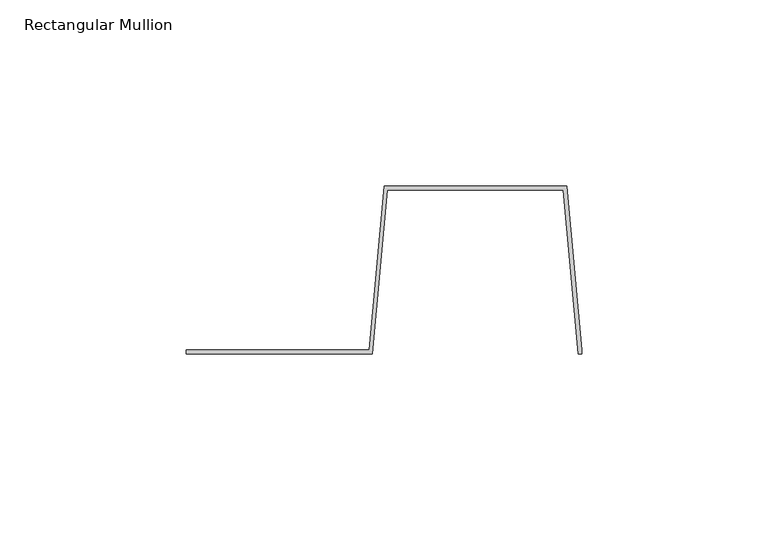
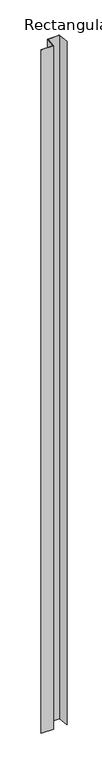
"""IFC4 building model written with IfcOpenShell, lengths in millimetres: member geometry, Rectangular Mullion : CD_NINELINE_Batten Intermediate."""

import ifcopenshell
import ifcopenshell.guid

model = None  # the IFC model being written
_history = None  # IfcOwnerHistory: only IFC2X3 demands one
_inside = {}  # id of a spatial element -> (the spatial element, [elements in it])
_under = {}  # id of a project, library or spatial element -> (it, [spatial elements below it])
_declared = {}  # id of a project -> (the project, [libraries it declares])
_typed = {}  # id of a type object -> (the type object, [elements of that type])
_made_of = {}  # id of a material, layer set ... -> (it, [elements and type objects made of it])


def new_model(schema):
    """Start an empty IFC model of exactly this schema.

    Asked for "IFC4X3", IfcOpenShell would pick the latest addendum, in which some entities
    have other attributes; the version numbers below select the first issue.
    IFC2X3 requires an IfcOwnerHistory on every rooted entity: one is made here for all.
    """
    global model, _history
    if schema == "IFC4X3":
        model = ifcopenshell.file(schema_version=(4, 3, 0, 0))
    else:
        model = ifcopenshell.file(schema=schema)
    _inside.clear()
    _under.clear()
    _declared.clear()
    _typed.clear()
    _made_of.clear()
    _history = None
    if model.schema == "IFC2X3":
        org = make("IfcOrganization", Name="unknown")
        user = make(
            "IfcPersonAndOrganization",
            ThePerson=make("IfcPerson", FamilyName="unknown"),
            TheOrganization=org,
        )
        app = make(
            "IfcApplication",
            ApplicationDeveloper=org,
            Version="unknown",
            ApplicationFullName="unknown",
            ApplicationIdentifier="unknown",
        )
        _history = make(
            "IfcOwnerHistory",
            OwningUser=user,
            OwningApplication=app,
            ChangeAction="ADDED",
            CreationDate=0,
        )
    return model


def make(cls, **values):
    """One entity of the class cls with the attributes given. An attribute that is None is left unset."""
    return model.create_entity(
        cls, **{name: value for name, value in values.items() if value is not None}
    )


def rooted(cls, **values):
    """An entity with a GlobalId (a new one), such as an element, a storey or a relation."""
    return make(cls, GlobalId=ifcopenshell.guid.new(), OwnerHistory=_history, **values)


def si_unit(unit_type, name, prefix=None):
    """IfcSIUnit, for example si_unit("LENGTHUNIT", "METRE", prefix="MILLI")."""
    return make("IfcSIUnit", UnitType=unit_type, Prefix=prefix, Name=name)


def assignment(units):
    """IfcUnitAssignment: the units of a project."""
    return None if units is None else make("IfcUnitAssignment", Units=units)


def point(xyz):
    """IfcCartesianPoint."""
    return None if xyz is None else make("IfcCartesianPoint", Coordinates=xyz)


def direction(xyz):
    """IfcDirection."""
    return None if xyz is None else make("IfcDirection", DirectionRatios=xyz)


def frame(location, z_axis=None, x_axis=None):
    """IfcAxis2Placement3D, a coordinate frame: its origin and axes. An axis left out is left unset."""
    return make(
        "IfcAxis2Placement3D",
        Location=point(location),
        Axis=direction(z_axis),
        RefDirection=direction(x_axis),
    )


def origin():
    """The frame at (0, 0, 0) with its axes left unset."""
    return frame((0.0, 0.0, 0.0))


def place(relative_to, where):
    """IfcLocalPlacement: puts the frame where relative to a parent placement (None: the world)."""
    return make(
        "IfcLocalPlacement", PlacementRelTo=relative_to, RelativePlacement=where
    )


def context(
    kind, dimensions, precision=None, world=None, true_north=None, identifier=None
):
    """IfcGeometricRepresentationContext, for example the 3D "Model" context."""
    return make(
        "IfcGeometricRepresentationContext",
        ContextIdentifier=identifier,
        ContextType=kind,
        CoordinateSpaceDimension=dimensions,
        Precision=precision,
        WorldCoordinateSystem=world,
        TrueNorth=true_north,
    )


def project(units=None, contexts=None):
    """IfcProject with its units and contexts."""
    return rooted(
        "IfcProject",
        Name="project",
        RepresentationContexts=contexts,
        UnitsInContext=assignment(units),
    )


def spatial(cls, under=None, at=None, **own):
    """A site, building, storey or space (cls), placed at a placement, below another one or the project."""
    s = rooted(cls, ObjectPlacement=at, **own)
    if under is not None:
        _under.setdefault(under.id(), (under, []))[1].append(s)
    return s


def polyline(points):
    """IfcPolyline through the points."""
    return make("IfcPolyline", Points=[point(p) for p in points])


def outline(outer, holes=None, kind="AREA"):
    """IfcArbitraryClosedProfileDef: a profile drawn as a closed curve; with holes, ...WithVoids."""
    if holes is None:
        return make("IfcArbitraryClosedProfileDef", ProfileType=kind, OuterCurve=outer)
    return make(
        "IfcArbitraryProfileDefWithVoids",
        ProfileType=kind,
        OuterCurve=outer,
        InnerCurves=holes,
    )


def extrude(swept, where, along, depth):
    """IfcExtrudedAreaSolid: the profile swept, set in the frame where, extruded along a direction by depth."""
    return make(
        "IfcExtrudedAreaSolid",
        SweptArea=swept,
        Position=where,
        ExtrudedDirection=direction(along),
        Depth=depth,
    )


def shape(context_of_items, identifier, shape_type, items):
    """IfcShapeRepresentation: the items that make up one representation, for example the "Body"."""
    return make(
        "IfcShapeRepresentation",
        ContextOfItems=context_of_items,
        RepresentationIdentifier=identifier,
        RepresentationType=shape_type,
        Items=items,
    )


def source(mapping_origin, context_of_items, identifier, shape_type, items):
    """IfcRepresentationMap: a shape defined once, which mapped items show again and again."""
    return make(
        "IfcRepresentationMap",
        MappingOrigin=mapping_origin,
        MappedRepresentation=shape(context_of_items, identifier, shape_type, items),
    )


def transform(
    local_origin,
    x_axis=None,
    y_axis=None,
    z_axis=None,
    scale=None,
    scale2=None,
    scale3=None,
    uniform=True,
):
    """IfcCartesianTransformationOperator3D, or its non-uniform kind. x_axis, y_axis, z_axis: its Axis1, 2, 3."""
    if uniform:
        return make(
            "IfcCartesianTransformationOperator3D",
            Axis1=direction(x_axis),
            Axis2=direction(y_axis),
            LocalOrigin=point(local_origin),
            Scale=scale,
            Axis3=direction(z_axis),
        )
    return make(
        "IfcCartesianTransformationOperator3DnonUniform",
        Axis1=direction(x_axis),
        Axis2=direction(y_axis),
        LocalOrigin=point(local_origin),
        Scale=scale,
        Axis3=direction(z_axis),
        Scale2=scale2,
        Scale3=scale3,
    )


def mapped(mapping_source, mapping_target):
    """IfcMappedItem: shows the shape of a source again, moved by a transform."""
    return make(
        "IfcMappedItem", MappingSource=mapping_source, MappingTarget=mapping_target
    )


def made_of(thing, what):
    """Note that an element or type object is made of a material, layer set ...; save() writes the relation."""
    if what is not None:
        _made_of.setdefault(what.id(), (what, []))[1].append(thing)
    return thing


def element(
    cls,
    number,
    at=None,
    inside=None,
    cuts=None,
    type_object=None,
    material=None,
    context=None,
    identifier="Body",
    shape_type=None,
    held_by="IfcProductDefinitionShape",
    body=None,
    shapes=None,
    **own,
):
    """One element of the class cls, such as IfcWall. Its Tag is "e" and its number.

    at: its placement. inside: the storey or other place that contains it. cuts: it is an
    opening in that element (IfcRelVoidsElement). A single representation is given by context,
    identifier, shape_type and body (its items); several are given by shapes. held_by: the class
    of the entity that holds the representations. save() writes the other relations.
    """
    e = rooted(cls, Tag="e%d" % number, ObjectPlacement=at, **own)
    if body is not None:
        shapes = [shape(context, identifier, shape_type, body)]
    if shapes is not None:
        e.Representation = make(held_by, Representations=shapes)
    if inside is not None:
        _inside.setdefault(inside.id(), (inside, []))[1].append(e)
    if cuts is not None:
        rooted(
            "IfcRelVoidsElement", RelatingBuildingElement=cuts, RelatedOpeningElement=e
        )
    if type_object is not None:
        _typed.setdefault(type_object.id(), (type_object, []))[1].append(e)
    return made_of(e, material)


def aggregate(whole, parts):
    """IfcRelAggregates: a whole, such as a stair, and the parts it consists of."""
    return rooted("IfcRelAggregates", RelatingObject=whole, RelatedObjects=parts)


def save(model, path):
    """Write the relations noted so far, then the file.

    IfcRelAggregates (storeys below a building ...), IfcRelContainedInSpatialStructure (elements
    in a storey), IfcRelDefinesByType, IfcRelAssociatesMaterial and IfcRelDeclares: one each for
    every whole, place, type object, material and project.
    """
    for whole, parts in _under.values():
        aggregate(whole, parts)
    for where, things in _inside.values():
        rooted(
            "IfcRelContainedInSpatialStructure",
            RelatedElements=things,
            RelatingStructure=where,
        )
    for kind, things in _typed.values():
        rooted("IfcRelDefinesByType", RelatedObjects=things, RelatingType=kind)
    for what, things in _made_of.values():
        rooted("IfcRelAssociatesMaterial", RelatedObjects=things, RelatingMaterial=what)
    for by, libraries in _declared.values():
        rooted("IfcRelDeclares", RelatingContext=by, RelatedDefinitions=libraries)
    model.write(path)


def rectangular_mullion_33439367(model_context):
    return source(origin(), model_context, "Body", "SweptSolid", [
        extrude(outline(polyline([(0.0, 0.0), (0.0, 1.0), (49.0, 1.0), (53.0, 45.0), (102.0, 45.0), (106.0, 1.0), (106.0, 0.0), (105.0867854, 0.0), (101.0867854, 44.0), (53.9132146, 44.0), (49.9132146, 0.0), (0.0, 0.0)])), frame((0.0, 0.0, -2942.0), z_axis=(0.0, 0.0, 1.0), x_axis=(1.0, 0.0, 0.0)), (0.0, 0.0, 1.0), 2942.0),
    ])


if __name__ == "__main__":
    model = new_model("IFC4")
    model_context = context("Model", 3, world=origin())
    ifc_project = project(units=[si_unit("LENGTHUNIT", "METRE", prefix="MILLI")], contexts=[model_context])
    site = spatial("IfcSite", under=ifc_project)
    building = spatial("IfcBuilding", under=site)
    placement = place(None, origin())
    rectangular_mullion_shape = rectangular_mullion_33439367(model_context)
    element("IfcMember", 1, ObjectType="Rectangular Mullion : CD_NINELINE_Batten Intermediate", at=placement, inside=building, context=model_context, shape_type="MappedRepresentation", body=[
        mapped(rectangular_mullion_shape, transform((0.0, 0.0, 0.0), x_axis=(1.0, 0.0, 0.0), y_axis=(0.0, 1.0, 0.0), z_axis=(0.0, 0.0, 1.0))),
    ])
    save(model, "model.ifc")
